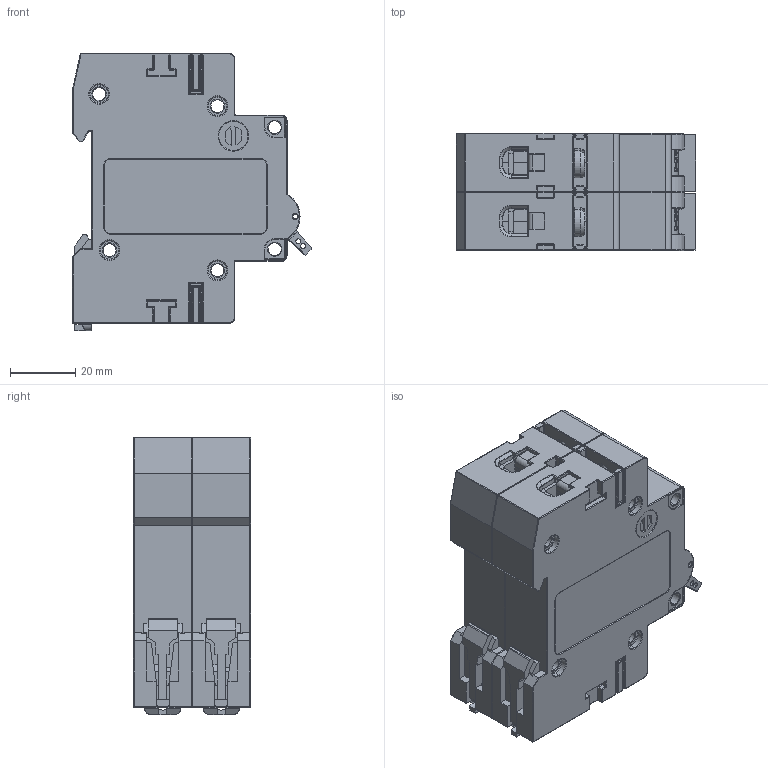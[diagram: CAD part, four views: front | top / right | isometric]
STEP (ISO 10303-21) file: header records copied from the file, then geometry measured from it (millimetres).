
FILE_DESCRIPTION (( 'STEP AP214' ), '1' );
FILE_NAME ('EVOZ2B25.STEP', '2026-06-18T07:33:42', ( '' ), ( '' ), 'SwSTEP 2.0', 'SolidWorks 2025', '' );
FILE_SCHEMA (( 'AUTOMOTIVE_DESIGN' ));
Length unit declared in the file: millimetre
Products named in the file (1): EVOZ2B25
Bounding box: 73.55 x 36 x 85.3 mm (x, y, z)
Volume: 139657.2 mm3; surface area: 66167.9 mm2
Topology: 12 solids, 36 shells, 4095 faces, 11110 edges, 7144 vertices
Faces by surface type: plane 2267, cylinder 1268, torus 338, sphere 88, bspline 72, cone 62
Entity records: 153924 total; most frequent: CARTESIAN_POINT 49152, ORIENTED_EDGE 22028, DIRECTION 20357, EDGE_CURVE 11014, VERTEX_POINT 7144, VECTOR 7105, LINE 7105, AXIS2_PLACEMENT_3D 6626
